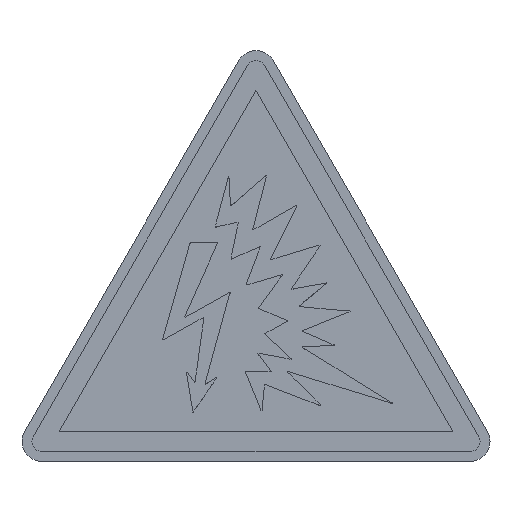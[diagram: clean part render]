
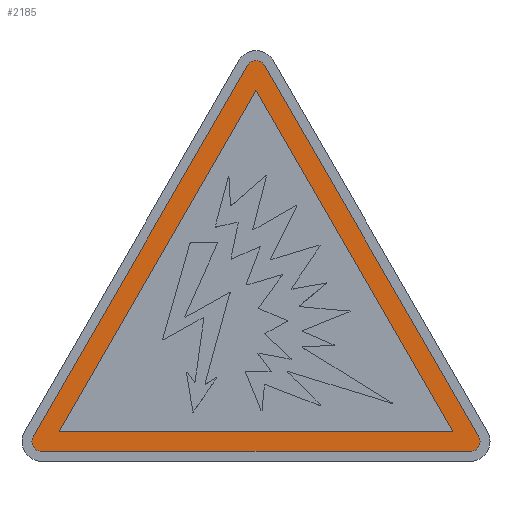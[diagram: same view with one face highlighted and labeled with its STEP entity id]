
A CAD part, top view. The second image highlights one B-rep face of the part: STEP entity #2185.
In plain terms, the highlighted planar face has unit normal (0, 0, 1).
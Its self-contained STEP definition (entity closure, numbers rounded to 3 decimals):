
#153 = EDGE_CURVE ( 'NONE', #2076, #8288, #4934, .T. ) ;
#557 = CARTESIAN_POINT ( 'NONE',  ( -21.536, 2., 0.22 ) ) ;
#793 = CARTESIAN_POINT ( 'NONE',  ( 19.804, 3., 0.22 ) ) ;
#866 = EDGE_CURVE ( 'NONE', #9366, #3303, #8600, .T. ) ;
#1246 = VECTOR ( 'NONE', #6618, 1000. ) ;
#1893 = VECTOR ( 'NONE', #4154, 1000. ) ;
#1981 = ORIENTED_EDGE ( 'NONE', *, *, #6978, .T. ) ;
#2045 = ORIENTED_EDGE ( 'NONE', *, *, #9861, .T. ) ;
#2076 = VERTEX_POINT ( 'NONE', #793 ) ;
#2185 = ADVANCED_FACE ( 'NONE', ( #4864, #8673 ), #9785, .T. ) ;
#2367 = CARTESIAN_POINT ( 'NONE',  ( 0., 39.301, 0.22 ) ) ;
#2394 = CIRCLE ( 'NONE', #9275, 1. ) ;
#2742 = VERTEX_POINT ( 'NONE', #10472 ) ;
#2912 = DIRECTION ( 'NONE',  ( -0.5, 0.866, 0. ) ) ;
#3034 = CARTESIAN_POINT ( 'NONE',  ( -21.536, 1., 0.22 ) ) ;
#3043 = ORIENTED_EDGE ( 'NONE', *, *, #5995, .T. ) ;
#3106 = DIRECTION ( 'NONE',  ( 0., 0., 1. ) ) ;
#3303 = VERTEX_POINT ( 'NONE', #11770 ) ;
#3436 = DIRECTION ( 'NONE',  ( -0.5, -0.866, 0. ) ) ;
#3612 = LINE ( 'NONE', #12231, #1246 ) ;
#3976 = LINE ( 'NONE', #5096, #1893 ) ;
#4154 = DIRECTION ( 'NONE',  ( 1., 0., 0. ) ) ;
#4275 = EDGE_LOOP ( 'NONE', ( #4501, #8472, #3043, #2045, #1981, #6318 ) ) ;
#4405 = VECTOR ( 'NONE', #11709, 1000. ) ;
#4501 = ORIENTED_EDGE ( 'NONE', *, *, #5006, .T. ) ;
#4766 = CARTESIAN_POINT ( 'NONE',  ( 21.536, 2., 0.22 ) ) ;
#4864 = FACE_OUTER_BOUND ( 'NONE', #4275, .T. ) ;
#4934 = LINE ( 'NONE', #8676, #4405 ) ;
#5006 = EDGE_CURVE ( 'NONE', #3303, #2742, #2394, .T. ) ;
#5096 = CARTESIAN_POINT ( 'NONE',  ( -19.804, 3., 0.22 ) ) ;
#5220 = EDGE_CURVE ( 'NONE', #8288, #12643, #6213, .T. ) ;
#5312 = AXIS2_PLACEMENT_3D ( 'NONE', #2367, #10262, #11196 ) ;
#5370 = CARTESIAN_POINT ( 'NONE',  ( 22.402, 2.5, 0.22 ) ) ;
#5453 = DIRECTION ( 'NONE',  ( 1., 0., 0. ) ) ;
#5568 = CIRCLE ( 'NONE', #9155, 1. ) ;
#5763 = EDGE_CURVE ( 'NONE', #2742, #10212, #3612, .T. ) ;
#5809 = DIRECTION ( 'NONE',  ( 1., 0., 0. ) ) ;
#5995 = EDGE_CURVE ( 'NONE', #10212, #7710, #5568, .T. ) ;
#6209 = CIRCLE ( 'NONE', #10843, 1. ) ;
#6213 = LINE ( 'NONE', #10065, #8117 ) ;
#6318 = ORIENTED_EDGE ( 'NONE', *, *, #866, .T. ) ;
#6567 = CARTESIAN_POINT ( 'NONE',  ( -21.536, 1., 0.22 ) ) ;
#6618 = DIRECTION ( 'NONE',  ( -0.5, -0.866, 0. ) ) ;
#6978 = EDGE_CURVE ( 'NONE', #10813, #9366, #6209, .T. ) ;
#7155 = CARTESIAN_POINT ( 'NONE',  ( -19.804, 3., 0.22 ) ) ;
#7382 = ORIENTED_EDGE ( 'NONE', *, *, #153, .F. ) ;
#7538 = VECTOR ( 'NONE', #2912, 1000. ) ;
#7710 = VERTEX_POINT ( 'NONE', #6567 ) ;
#8054 = VECTOR ( 'NONE', #10789, 1000. ) ;
#8117 = VECTOR ( 'NONE', #3436, 1000. ) ;
#8288 = VERTEX_POINT ( 'NONE', #9074 ) ;
#8472 = ORIENTED_EDGE ( 'NONE', *, *, #5763, .T. ) ;
#8582 = DIRECTION ( 'NONE',  ( 0., 0., 1. ) ) ;
#8600 = LINE ( 'NONE', #12548, #7538 ) ;
#8618 = CARTESIAN_POINT ( 'NONE',  ( -22.402, 2.5, 0.22 ) ) ;
#8673 = FACE_BOUND ( 'NONE', #8982, .T. ) ;
#8676 = CARTESIAN_POINT ( 'NONE',  ( 19.804, 3., 0.22 ) ) ;
#8982 = EDGE_LOOP ( 'NONE', ( #9261, #11626, #7382 ) ) ;
#9074 = CARTESIAN_POINT ( 'NONE',  ( 0., 37.301, 0.22 ) ) ;
#9155 = AXIS2_PLACEMENT_3D ( 'NONE', #557, #12129, #5453 ) ;
#9261 = ORIENTED_EDGE ( 'NONE', *, *, #12017, .F. ) ;
#9275 = AXIS2_PLACEMENT_3D ( 'NONE', #11838, #3106, #5809 ) ;
#9366 = VERTEX_POINT ( 'NONE', #5370 ) ;
#9651 = CARTESIAN_POINT ( 'NONE',  ( 21.536, 1., 0.22 ) ) ;
#9785 = PLANE ( 'NONE',  #5312 ) ;
#9861 = EDGE_CURVE ( 'NONE', #7710, #10813, #11760, .T. ) ;
#10065 = CARTESIAN_POINT ( 'NONE',  ( 0., 37.301, 0.22 ) ) ;
#10212 = VERTEX_POINT ( 'NONE', #8618 ) ;
#10262 = DIRECTION ( 'NONE',  ( 0., 0., 1. ) ) ;
#10472 = CARTESIAN_POINT ( 'NONE',  ( -0.866, 39.801, 0.22 ) ) ;
#10789 = DIRECTION ( 'NONE',  ( 1., 0., 0. ) ) ;
#10813 = VERTEX_POINT ( 'NONE', #9651 ) ;
#10843 = AXIS2_PLACEMENT_3D ( 'NONE', #4766, #8582, #12527 ) ;
#11196 = DIRECTION ( 'NONE',  ( 1., 0., 0. ) ) ;
#11626 = ORIENTED_EDGE ( 'NONE', *, *, #5220, .F. ) ;
#11709 = DIRECTION ( 'NONE',  ( -0.5, 0.866, 0. ) ) ;
#11760 = LINE ( 'NONE', #3034, #8054 ) ;
#11770 = CARTESIAN_POINT ( 'NONE',  ( 0.866, 39.801, 0.22 ) ) ;
#11838 = CARTESIAN_POINT ( 'NONE',  ( 0., 39.301, 0.22 ) ) ;
#12017 = EDGE_CURVE ( 'NONE', #12643, #2076, #3976, .T. ) ;
#12129 = DIRECTION ( 'NONE',  ( 0., 0., 1. ) ) ;
#12231 = CARTESIAN_POINT ( 'NONE',  ( -0.866, 39.801, 0.22 ) ) ;
#12527 = DIRECTION ( 'NONE',  ( 1., 0., 0. ) ) ;
#12548 = CARTESIAN_POINT ( 'NONE',  ( 22.402, 2.5, 0.22 ) ) ;
#12643 = VERTEX_POINT ( 'NONE', #7155 ) ;
